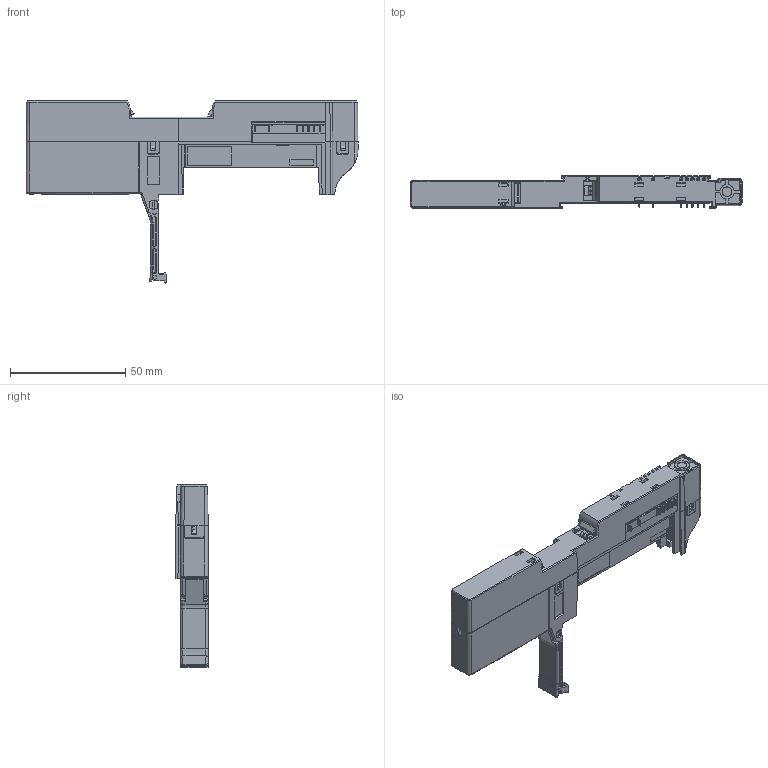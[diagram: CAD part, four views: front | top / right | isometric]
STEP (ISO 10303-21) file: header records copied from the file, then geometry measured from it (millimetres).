
FILE_DESCRIPTION((''),'2;1');
FILE_NAME('1734-TOPS_ASM','2020-09-25T17:04:05',('SR4'),('Rockwell Automation'),'CREO PARAMETRIC BY PTC INC, 2017380','CREO PARAMETRIC BY PTC INC, 2017380','');
FILE_SCHEMA(('CONFIG_CONTROL_DESIGN'));
Products named in the file (1): 1734-TOPS_ASM
Bounding box: 144 x 14 x 78.97 mm (x, y, z)
Volume: 5172.6 mm3; surface area: 51742.9 mm2
Topology: 8 solids, 28 shells, 7376 faces, 22777 edges, 15248 vertices
Faces by surface type: plane 5451, cylinder 1253, cone 468, bspline 82, extrusion 52, torus 45, sphere 25
Entity records: 259898 total; most frequent: CARTESIAN_POINT 59131, ORIENTED_EDGE 44498, DIRECTION 37604, EDGE_CURVE 22752, VECTOR 17370, LINE 17318, VERTEX_POINT 15248, AXIS2_PLACEMENT_3D 10117
